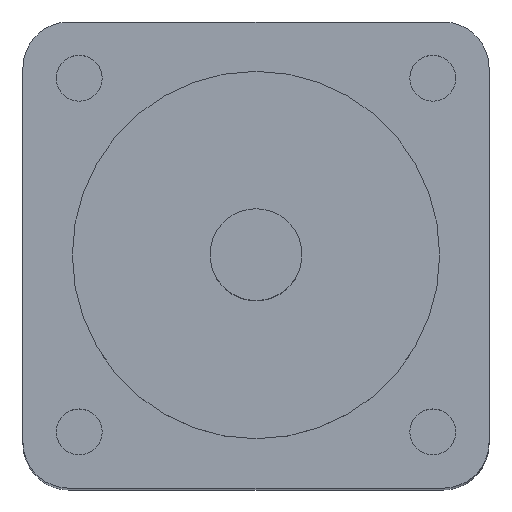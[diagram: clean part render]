
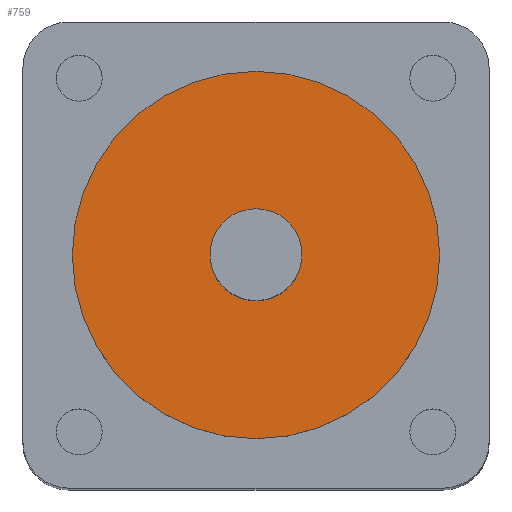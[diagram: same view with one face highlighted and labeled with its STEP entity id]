
A CAD part, top view. The second image highlights one B-rep face of the part: STEP entity #759.
In plain terms, the highlighted planar face has unit normal (0, 0, 1).
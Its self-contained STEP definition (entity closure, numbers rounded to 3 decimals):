
#61 = DIRECTION ( 'NONE',  ( 1., 0., 0. ) ) ;
#68 = CARTESIAN_POINT ( 'NONE',  ( -23.833, 6.321, 47.3 ) ) ;
#75 = DIRECTION ( 'NONE',  ( 0., 0., 1. ) ) ;
#101 = ORIENTED_EDGE ( 'NONE', *, *, #758, .T. ) ;
#114 = ORIENTED_EDGE ( 'NONE', *, *, #789, .T. ) ;
#116 = ORIENTED_EDGE ( 'NONE', *, *, #683, .F. ) ;
#122 = VERTEX_POINT ( 'NONE', #742 ) ;
#133 = VERTEX_POINT ( 'NONE', #733 ) ;
#137 = VERTEX_POINT ( 'NONE', #727 ) ;
#141 = VERTEX_POINT ( 'NONE', #725 ) ;
#163 = EDGE_LOOP ( 'NONE', ( #116, #296 ) ) ;
#230 = FACE_BOUND ( 'NONE', #163, .T. ) ;
#231 = FACE_OUTER_BOUND ( 'NONE', #250, .T. ) ;
#250 = EDGE_LOOP ( 'NONE', ( #114, #101 ) ) ;
#296 = ORIENTED_EDGE ( 'NONE', *, *, #704, .F. ) ;
#360 = CARTESIAN_POINT ( 'NONE',  ( -23.833, 6.321, 47.3 ) ) ;
#394 = CARTESIAN_POINT ( 'NONE',  ( -23.833, 6.321, 47.3 ) ) ;
#395 = DIRECTION ( 'NONE',  ( 0., 0., 1. ) ) ;
#396 = DIRECTION ( 'NONE',  ( 1., 0., 0. ) ) ;
#397 = PLANE ( 'NONE',  #618 ) ;
#398 = CARTESIAN_POINT ( 'NONE',  ( -23.833, 6.321, 47.3 ) ) ;
#399 = DIRECTION ( 'NONE',  ( 0., 0., 1. ) ) ;
#400 = DIRECTION ( 'NONE',  ( 1., 0., 0. ) ) ;
#477 = CARTESIAN_POINT ( 'NONE',  ( -23.833, 6.321, 47.3 ) ) ;
#478 = DIRECTION ( 'NONE',  ( 0., 0., 1. ) ) ;
#479 = DIRECTION ( 'NONE',  ( 1., 0., 0. ) ) ;
#537 = CIRCLE ( 'NONE', #645, 2. ) ;
#545 = AXIS2_PLACEMENT_3D ( 'NONE', #477, #478, #479 ) ;
#566 = CIRCLE ( 'NONE', #545, 8. ) ;
#596 = CIRCLE ( 'NONE', #602, 2. ) ;
#602 = AXIS2_PLACEMENT_3D ( 'NONE', #360, #722, #719 ) ;
#618 = AXIS2_PLACEMENT_3D ( 'NONE', #398, #399, #400 ) ;
#619 = CIRCLE ( 'NONE', #653, 8. ) ;
#645 = AXIS2_PLACEMENT_3D ( 'NONE', #68, #75, #61 ) ;
#653 = AXIS2_PLACEMENT_3D ( 'NONE', #394, #395, #396 ) ;
#683 = EDGE_CURVE ( 'NONE', #133, #137, #537, .T. ) ;
#704 = EDGE_CURVE ( 'NONE', #137, #133, #596, .T. ) ;
#719 = DIRECTION ( 'NONE',  ( 1., 0., 0. ) ) ;
#722 = DIRECTION ( 'NONE',  ( 0., 0., 1. ) ) ;
#725 = CARTESIAN_POINT ( 'NONE',  ( -15.833, 6.321, 47.3 ) ) ;
#727 = CARTESIAN_POINT ( 'NONE',  ( -21.833, 6.321, 47.3 ) ) ;
#733 = CARTESIAN_POINT ( 'NONE',  ( -25.833, 6.321, 47.3 ) ) ;
#742 = CARTESIAN_POINT ( 'NONE',  ( -31.833, 6.321, 47.3 ) ) ;
#758 = EDGE_CURVE ( 'NONE', #141, #122, #619, .T. ) ;
#759 = ADVANCED_FACE ( 'NONE', ( #231, #230 ), #397, .T. ) ;
#789 = EDGE_CURVE ( 'NONE', #122, #141, #566, .T. ) ;
